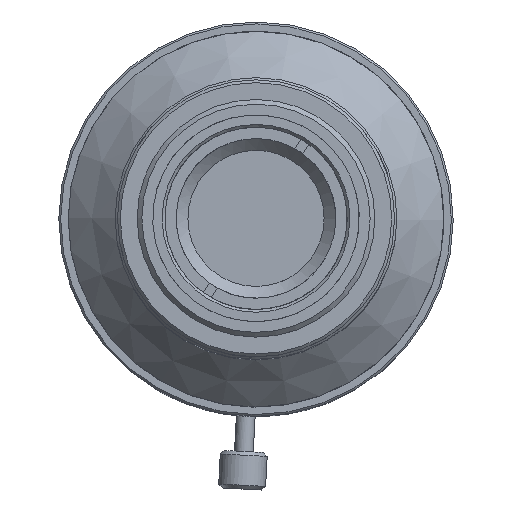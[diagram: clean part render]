
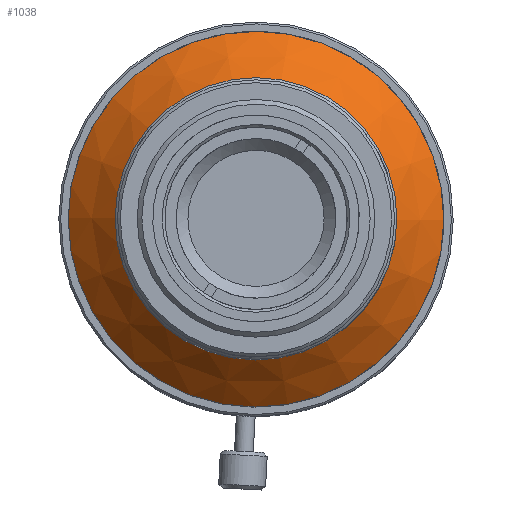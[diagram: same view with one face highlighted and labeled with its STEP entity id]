
A CAD part, top view. The second image highlights one B-rep face of the part: STEP entity #1038.
In plain terms, the highlighted conical face has half-angle 45 degrees and reference radius 15 mm.
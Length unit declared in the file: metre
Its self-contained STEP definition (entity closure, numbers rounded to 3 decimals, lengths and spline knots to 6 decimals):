
#1038=ADVANCED_FACE('16:3582',(#2722,#2723),#2724,.T.);
#1934=EDGE_CURVE('NONE',#4012,#4012,#4013,.T.);
#1936=EDGE_CURVE('NONE',#4015,#4015,#4016,.T.);
#2722=FACE_OUTER_BOUND('',#6090,.T.);
#2723=FACE_BOUND('',#6091,.T.);
#2724=CONICAL_SURFACE('',#6092,0.015,0.785);
#4012=VERTEX_POINT('',#11343);
#4013=CIRCLE('',#11344,0.02);
#4015=VERTEX_POINT('',#11347);
#4016=CIRCLE('',#11348,0.015);
#6090=EDGE_LOOP('',(#13639));
#6091=EDGE_LOOP('',(#13640));
#6092=AXIS2_PLACEMENT_3D('',#13641,#13642,#13643);
#11343=CARTESIAN_POINT('',(-0.020172,-0.001057,0.072472));
#11344=AXIS2_PLACEMENT_3D('',#14726,#14727,#14728);
#11347=CARTESIAN_POINT('',(-0.015179,-0.000796,0.077472));
#11348=AXIS2_PLACEMENT_3D('',#14729,#14730,#14731);
#13639=ORIENTED_EDGE('',*,*,#1934,.F.);
#13640=ORIENTED_EDGE('',*,*,#1936,.T.);
#13641=CARTESIAN_POINT('',(-0.0002,-0.000011,0.077472));
#13642=DIRECTION('',(0.,0.,-1.0));
#13643=DIRECTION('',(-0.999,-0.052,0.));
#14726=CARTESIAN_POINT('',(-0.0002,-0.000011,0.072472));
#14727=DIRECTION('',(0.,0.,-1.0));
#14728=DIRECTION('',(-0.999,-0.052,0.));
#14729=CARTESIAN_POINT('',(-0.0002,-0.000011,0.077472));
#14730=DIRECTION('',(0.,0.,-1.0));
#14731=DIRECTION('',(-0.999,-0.052,0.));
